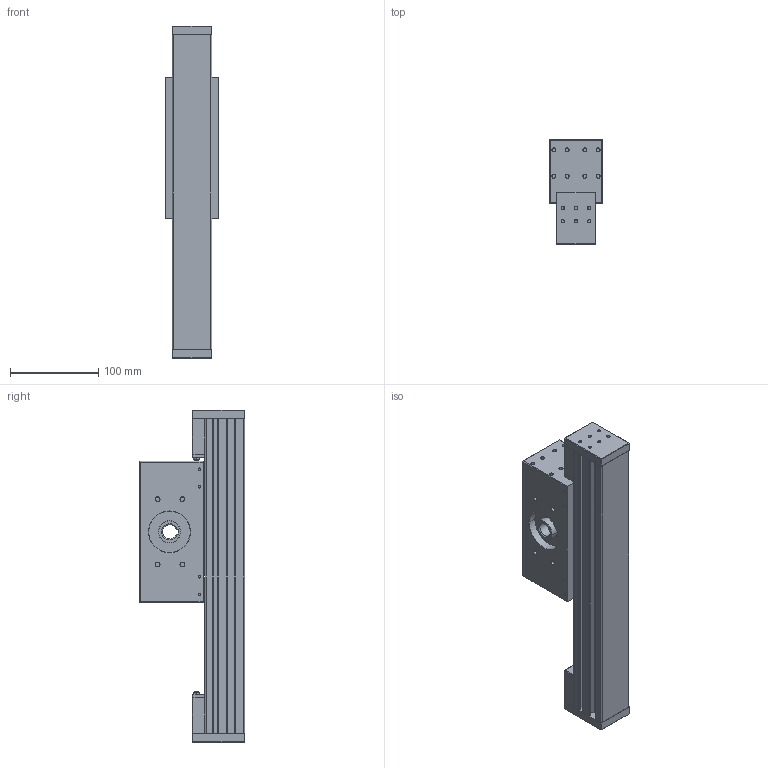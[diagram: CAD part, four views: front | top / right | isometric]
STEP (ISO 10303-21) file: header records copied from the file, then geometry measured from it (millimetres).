
FILE_DESCRIPTION((''),'2;1');
FILE_NAME('Z46-100L_ASM','2017-02-22T',('Owner'),(''),'PRO/ENGINEER BY PARAMETRIC TECHNOLOGY CORPORATION, 2009440','PRO/ENGINEER BY PARAMETRIC TECHNOLOGY CORPORATION, 2009440','');
FILE_SCHEMA(('CONFIG_CONTROL_DESIGN'));
Length unit declared in the file: millimetre
Products named in the file (7): Z46S_EXTRUDE_STRUCTURE; Z46_SIDE_CAP; Z46S_UP_CAP; Z46_CUSHION; Z46_DRIVER; PULLEY; Z46-100L_ASM
Assembly tree (9 placements, depth 2):
  Z46-100L_ASM
    Z46S_EXTRUDE_STRUCTURE
    Z46_SIDE_CAP  x2
    Z46S_UP_CAP  x2
    Z46_CUSHION  x2
    Z46_DRIVER
    PULLEY
Bounding box: 60 x 119 x 376 mm (x, y, z)
Volume: 1323096.9 mm3; surface area: 214392.8 mm2
Topology: 9 solids, 9 shells, 495 faces, 1116 edges, 702 vertices
Faces by surface type: plane 230, cylinder 141, cone 122, torus 2
Entity records: 11755 total; most frequent: DIRECTION 2149, CARTESIAN_POINT 1965, ORIENTED_EDGE 1874, EDGE_CURVE 937, AXIS2_PLACEMENT_3D 784, VERTEX_POINT 588, VECTOR 581, LINE 581
